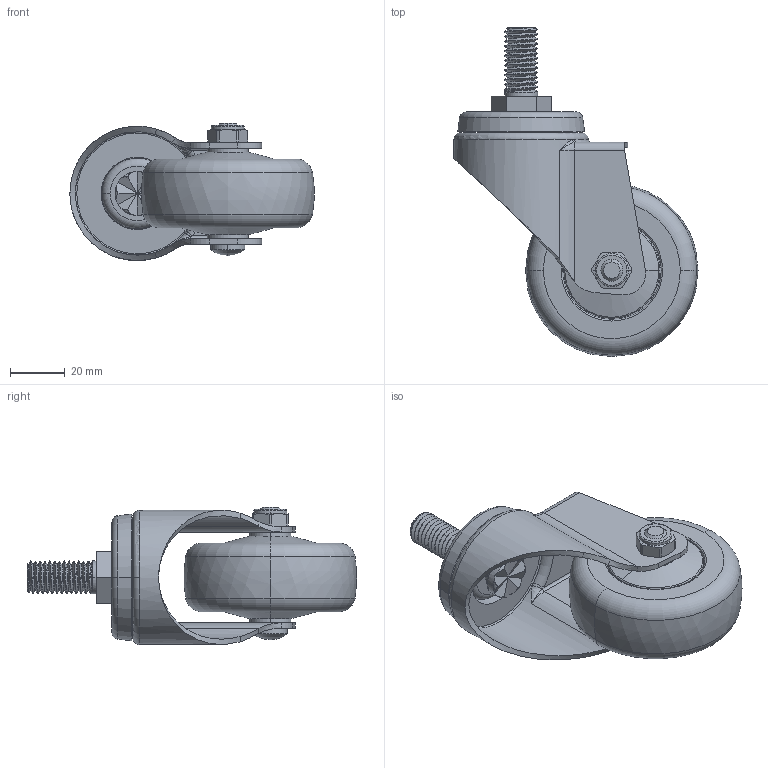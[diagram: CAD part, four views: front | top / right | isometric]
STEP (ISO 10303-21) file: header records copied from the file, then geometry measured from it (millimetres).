
FILE_DESCRIPTION((''),'2;1');
FILE_NAME('371325_ASM','2026-07-09T',('Lenovo'),(''),'PRO/ENGINEER BY PARAMETRIC TECHNOLOGY CORPORATION, 2010280','PRO/ENGINEER BY PARAMETRIC TECHNOLOGY CORPORATION, 2010280','');
FILE_SCHEMA(('CONFIG_CONTROL_DESIGN'));
Length unit declared in the file: millimetre
Products named in the file (8): 37125-311; 360-23-M12X25; 360-03; 3725-977; 3725-69; 350-33A; 300-34; 371325_ASM
Assembly tree (8 placements, depth 2):
  371325_ASM
    37125-311
    360-23-M12X25
    360-03
    3725-977
    3725-69  x2
    350-33A
    300-34
Bounding box: 88.97 x 119.93 x 49.96 mm (x, y, z)
Volume: 97773.7 mm3; surface area: 43812.2 mm2
Topology: 8 solids, 8 shells, 317 faces, 718 edges, 434 vertices
Faces by surface type: cylinder 111, plane 79, torus 62, bspline 38, cone 25, sphere 2
Entity records: 13570 total; most frequent: CARTESIAN_POINT 7019, DIRECTION 1355, ORIENTED_EDGE 1320, EDGE_CURVE 660, AXIS2_PLACEMENT_3D 571, VERTEX_POINT 402, EDGE_LOOP 320, CIRCLE 300
